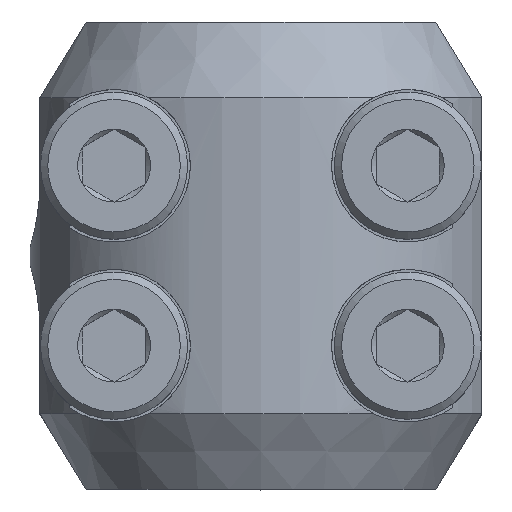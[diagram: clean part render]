
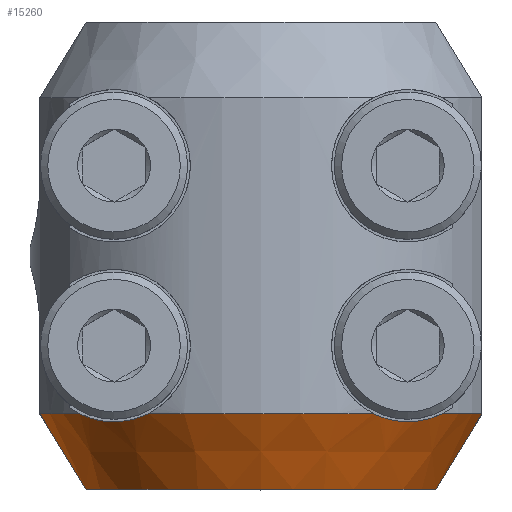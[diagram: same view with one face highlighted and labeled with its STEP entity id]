
A CAD part, top view. The second image highlights one B-rep face of the part: STEP entity #15260.
In plain terms, the highlighted conical face has half-angle 30 degrees and reference radius 9.941 mm.
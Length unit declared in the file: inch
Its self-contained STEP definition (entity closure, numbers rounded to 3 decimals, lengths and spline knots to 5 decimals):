
#68=(
BOUNDED_CURVE()
B_SPLINE_CURVE(2,(#29231,#29232,#29233),.UNSPECIFIED.,.F.,.F.)
B_SPLINE_CURVE_WITH_KNOTS((3,3),(0.,0.42139),.UNSPECIFIED.)
CURVE()
GEOMETRIC_REPRESENTATION_ITEM()
RATIONAL_B_SPLINE_CURVE((1.,1.006,1.))
REPRESENTATION_ITEM('')
);
#70=(
BOUNDED_CURVE()
B_SPLINE_CURVE(2,(#29406,#29407,#29408),.UNSPECIFIED.,.F.,.F.)
B_SPLINE_CURVE_WITH_KNOTS((3,3),(0.,0.42139),.UNSPECIFIED.)
CURVE()
GEOMETRIC_REPRESENTATION_ITEM()
RATIONAL_B_SPLINE_CURVE((1.,1.006,1.))
REPRESENTATION_ITEM('')
);
#87=CONICAL_SURFACE('',#16508,0.39136,0.524);
#1534=FACE_OUTER_BOUND('',#2434,.T.);
#2434=EDGE_LOOP('',(#13831,#13832,#13833,#13834,#13835,#13836,#13837,#13838));
#2914=B_SPLINE_CURVE_WITH_KNOTS('',3,(#28982,#28983,#28984,#28985,#28986,
#28987,#28988,#28989),.UNSPECIFIED.,.F.,.F.,(4,2,2,4),(1.76259,
1.93044,2.10746,2.18125),.UNSPECIFIED.);
#2923=B_SPLINE_CURVE_WITH_KNOTS('',3,(#29099,#29100,#29101,#29102,#29103,
#29104,#29105,#29106),.UNSPECIFIED.,.F.,.F.,(4,2,2,4),(2.04571,
2.11951,2.29653,2.46438),.UNSPECIFIED.);
#3497=CIRCLE('',#16362,0.43225);
#3503=CIRCLE('',#16368,0.43225);
#3504=CIRCLE('',#16369,0.43225);
#3580=CIRCLE('',#16507,0.35047);
#7209=VERTEX_POINT('',#28522);
#7214=VERTEX_POINT('',#28556);
#7215=VERTEX_POINT('',#28563);
#7241=VERTEX_POINT('',#28712);
#7242=VERTEX_POINT('',#28714);
#7248=VERTEX_POINT('',#28737);
#7306=VERTEX_POINT('',#29229);
#7333=VERTEX_POINT('',#29405);
#9343=EDGE_CURVE('',#7215,#7214,#3497,.T.);
#9370=EDGE_CURVE('',#7242,#7241,#3503,.T.);
#9377=EDGE_CURVE('',#7209,#7248,#3504,.T.);
#9411=EDGE_CURVE('',#7214,#7209,#2914,.T.);
#9437=EDGE_CURVE('',#7248,#7242,#2923,.T.);
#9464=EDGE_CURVE('',#7241,#7306,#68,.T.);
#9503=EDGE_CURVE('',#7333,#7215,#70,.T.);
#9567=EDGE_CURVE('',#7306,#7333,#3580,.T.);
#13831=ORIENTED_EDGE('',*,*,#9411,.T.);
#13832=ORIENTED_EDGE('',*,*,#9377,.T.);
#13833=ORIENTED_EDGE('',*,*,#9437,.T.);
#13834=ORIENTED_EDGE('',*,*,#9370,.T.);
#13835=ORIENTED_EDGE('',*,*,#9464,.T.);
#13836=ORIENTED_EDGE('',*,*,#9567,.T.);
#13837=ORIENTED_EDGE('',*,*,#9503,.T.);
#13838=ORIENTED_EDGE('',*,*,#9343,.T.);
#15260=ADVANCED_FACE('',(#1534),#87,.T.);
#16362=AXIS2_PLACEMENT_3D('',#28564,#19574,#19575);
#16368=AXIS2_PLACEMENT_3D('',#28715,#19596,#19597);
#16369=AXIS2_PLACEMENT_3D('',#28759,#19600,#19601);
#16507=AXIS2_PLACEMENT_3D('',#29717,#19926,#19927);
#16508=AXIS2_PLACEMENT_3D('',#29718,#19928,#19929);
#19574=DIRECTION('center_axis',(0.,-1.,0.));
#19575=DIRECTION('ref_axis',(1.,0.,0.));
#19596=DIRECTION('center_axis',(0.,-1.,0.));
#19597=DIRECTION('ref_axis',(1.,0.,0.));
#19600=DIRECTION('center_axis',(0.,-1.,0.));
#19601=DIRECTION('ref_axis',(1.,0.,0.));
#19926=DIRECTION('center_axis',(0.,1.,0.));
#19927=DIRECTION('ref_axis',(1.,0.,0.));
#19928=DIRECTION('center_axis',(0.,1.,0.));
#19929=DIRECTION('ref_axis',(1.,0.,0.));
#28522=CARTESIAN_POINT('',(0.21068,-0.29585,0.37743));
#28556=CARTESIAN_POINT('',(0.33932,-0.29585,0.26777));
#28563=CARTESIAN_POINT('',(0.41378,-0.29585,0.125));
#28564=CARTESIAN_POINT('Origin',(0.,-0.29585,0.));
#28712=CARTESIAN_POINT('',(-0.41378,-0.29585,0.125));
#28714=CARTESIAN_POINT('',(-0.33932,-0.29585,0.26777));
#28715=CARTESIAN_POINT('Origin',(0.,-0.29585,0.));
#28737=CARTESIAN_POINT('',(-0.21068,-0.29585,0.37743));
#28759=CARTESIAN_POINT('Origin',(0.,-0.29585,0.));
#28982=CARTESIAN_POINT('Ctrl Pts',(0.33932,-0.29585,0.26777));
#28983=CARTESIAN_POINT('Ctrl Pts',(0.32319,-0.304,
0.28062));
#28984=CARTESIAN_POINT('Ctrl Pts',(0.30551,-0.30903,
0.29588));
#28985=CARTESIAN_POINT('Ctrl Pts',(0.2686,-0.31229,
0.32742));
#28986=CARTESIAN_POINT('Ctrl Pts',(0.24936,-0.30998,
0.34376));
#28987=CARTESIAN_POINT('Ctrl Pts',(0.22513,-0.30238,
0.36469));
#28988=CARTESIAN_POINT('Ctrl Pts',(0.21784,-0.29947,
0.37104));
#28989=CARTESIAN_POINT('Ctrl Pts',(0.21068,-0.29585,0.37743));
#29099=CARTESIAN_POINT('Ctrl Pts',(-0.21068,-0.29585,0.37743));
#29100=CARTESIAN_POINT('Ctrl Pts',(-0.21784,-0.29947,
0.37104));
#29101=CARTESIAN_POINT('Ctrl Pts',(-0.22513,-0.30238,
0.36469));
#29102=CARTESIAN_POINT('Ctrl Pts',(-0.24936,-0.30998,
0.34376));
#29103=CARTESIAN_POINT('Ctrl Pts',(-0.2686,-0.31229,
0.32742));
#29104=CARTESIAN_POINT('Ctrl Pts',(-0.30551,-0.30903,
0.29588));
#29105=CARTESIAN_POINT('Ctrl Pts',(-0.32319,-0.304,
0.28062));
#29106=CARTESIAN_POINT('Ctrl Pts',(-0.33932,-0.29585,0.26777));
#29229=CARTESIAN_POINT('',(-0.32742,-0.4375,0.125));
#29231=CARTESIAN_POINT('Ctrl Pts',(-0.41378,-0.29585,0.125));
#29232=CARTESIAN_POINT('Ctrl Pts',(-0.36609,-0.37493,
0.125));
#29233=CARTESIAN_POINT('Ctrl Pts',(-0.32742,-0.4375,0.125));
#29405=CARTESIAN_POINT('',(0.32742,-0.4375,0.125));
#29406=CARTESIAN_POINT('Ctrl Pts',(0.32742,-0.4375,0.125));
#29407=CARTESIAN_POINT('Ctrl Pts',(0.36609,-0.37493,
0.125));
#29408=CARTESIAN_POINT('Ctrl Pts',(0.41378,-0.29585,0.125));
#29717=CARTESIAN_POINT('Origin',(0.,-0.4375,0.));
#29718=CARTESIAN_POINT('Origin',(0.,-0.36668,0.));
